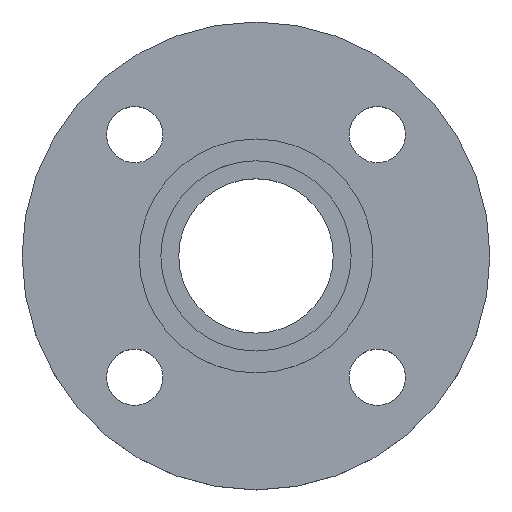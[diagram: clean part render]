
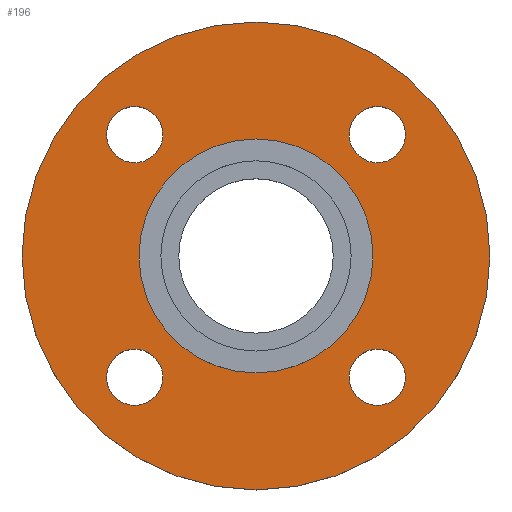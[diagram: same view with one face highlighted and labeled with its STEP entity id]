
A CAD part, top view. The second image highlights one B-rep face of the part: STEP entity #196.
In plain terms, the highlighted planar face has unit normal (0, 0, 1).
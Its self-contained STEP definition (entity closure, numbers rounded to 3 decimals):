
#7 = DIRECTION ( 'NONE',  ( 1., 0., 0. ) ) ;
#9 = CIRCLE ( 'NONE', #320, 9. ) ;
#15 = DIRECTION ( 'NONE',  ( -1., 0., 0. ) ) ;
#17 = AXIS2_PLACEMENT_3D ( 'NONE', #220, #118, #7 ) ;
#38 = CIRCLE ( 'NONE', #270, 75. ) ;
#47 = CARTESIAN_POINT ( 'NONE',  ( 0., 0., -4.5 ) ) ;
#48 = CARTESIAN_POINT ( 'NONE',  ( -47.891, -38.891, -4.5 ) ) ;
#49 = DIRECTION ( 'NONE',  ( 0., 0., -1. ) ) ;
#50 = CARTESIAN_POINT ( 'NONE',  ( 38.891, 38.891, -4.5 ) ) ;
#56 = CARTESIAN_POINT ( 'NONE',  ( -29.891, -38.891, -4.5 ) ) ;
#59 = CARTESIAN_POINT ( 'NONE',  ( -37.5, 0., -4.5 ) ) ;
#68 = DIRECTION ( 'NONE',  ( 1., 0., 0. ) ) ;
#76 = CARTESIAN_POINT ( 'NONE',  ( -47.891, 38.891, -4.5 ) ) ;
#81 = CARTESIAN_POINT ( 'NONE',  ( 47.891, -38.891, -4.5 ) ) ;
#84 = DIRECTION ( 'NONE',  ( 1., 0., 0. ) ) ;
#85 = DIRECTION ( 'NONE',  ( 0., 0., -1. ) ) ;
#96 = CARTESIAN_POINT ( 'NONE',  ( 0., 0., -4.5 ) ) ;
#97 = DIRECTION ( 'NONE',  ( 0., 0., -1. ) ) ;
#99 = DIRECTION ( 'NONE',  ( 0., 0., -1. ) ) ;
#101 = DIRECTION ( 'NONE',  ( -1., 0., 0. ) ) ;
#115 = CARTESIAN_POINT ( 'NONE',  ( -38.891, 38.891, -4.5 ) ) ;
#117 = DIRECTION ( 'NONE',  ( 0., 0., -1. ) ) ;
#118 = DIRECTION ( 'NONE',  ( 0., 0., -1. ) ) ;
#119 = DIRECTION ( 'NONE',  ( 1., 0., 0. ) ) ;
#128 = EDGE_CURVE ( 'NONE', #315, #329, #407, .T. ) ;
#130 = CARTESIAN_POINT ( 'NONE',  ( 38.891, 38.891, -4.5 ) ) ;
#133 = CARTESIAN_POINT ( 'NONE',  ( 47.891, 38.891, -4.5 ) ) ;
#137 = AXIS2_PLACEMENT_3D ( 'NONE', #598, #599, #602 ) ;
#149 = CIRCLE ( 'NONE', #137, 9. ) ;
#152 = AXIS2_PLACEMENT_3D ( 'NONE', #130, #49, #84 ) ;
#168 = CARTESIAN_POINT ( 'NONE',  ( -38.891, 38.891, -4.5 ) ) ;
#169 = DIRECTION ( 'NONE',  ( 0., 0., -1. ) ) ;
#170 = DIRECTION ( 'NONE',  ( 1., 0., 0. ) ) ;
#175 = CIRCLE ( 'NONE', #152, 9. ) ;
#177 = CIRCLE ( 'NONE', #259, 9. ) ;
#179 = CARTESIAN_POINT ( 'NONE',  ( -38.891, -38.891, -4.5 ) ) ;
#180 = DIRECTION ( 'NONE',  ( 0., 0., -1. ) ) ;
#181 = DIRECTION ( 'NONE',  ( 1., 0., 0. ) ) ;
#186 = CARTESIAN_POINT ( 'NONE',  ( -75., 0., -4.5 ) ) ;
#188 = CARTESIAN_POINT ( 'NONE',  ( -29.891, 38.891, -4.5 ) ) ;
#191 = CARTESIAN_POINT ( 'NONE',  ( 37.5, 0., -4.5 ) ) ;
#196 = ADVANCED_FACE ( 'NONE', ( #587, #588, #589, #591, #592, #593 ), #594, .T. ) ;
#197 = CARTESIAN_POINT ( 'NONE',  ( 29.891, -38.891, -4.5 ) ) ;
#200 = AXIS2_PLACEMENT_3D ( 'NONE', #179, #180, #181 ) ;
#205 = CARTESIAN_POINT ( 'NONE',  ( 29.891, 38.891, -4.5 ) ) ;
#207 = EDGE_CURVE ( 'NONE', #498, #319, #149, .T. ) ;
#212 = CARTESIAN_POINT ( 'NONE',  ( 75., 0., -4.5 ) ) ;
#219 = CIRCLE ( 'NONE', #229, 9. ) ;
#220 = CARTESIAN_POINT ( 'NONE',  ( -38.891, -38.891, -4.5 ) ) ;
#221 = CIRCLE ( 'NONE', #17, 9. ) ;
#229 = AXIS2_PLACEMENT_3D ( 'NONE', #50, #97, #68 ) ;
#232 = EDGE_CURVE ( 'NONE', #317, #481, #430, .T. ) ;
#244 = EDGE_CURVE ( 'NONE', #319, #498, #9, .T. ) ;
#246 = AXIS2_PLACEMENT_3D ( 'NONE', #96, #99, #101 ) ;
#247 = CIRCLE ( 'NONE', #200, 9. ) ;
#259 = AXIS2_PLACEMENT_3D ( 'NONE', #168, #169, #170 ) ;
#260 = AXIS2_PLACEMENT_3D ( 'NONE', #564, #565, #566 ) ;
#262 = DIRECTION ( 'NONE',  ( -1., 0., 0. ) ) ;
#264 = CIRCLE ( 'NONE', #277, 9. ) ;
#270 = AXIS2_PLACEMENT_3D ( 'NONE', #47, #85, #15 ) ;
#275 = EDGE_CURVE ( 'NONE', #481, #317, #530, .T. ) ;
#277 = AXIS2_PLACEMENT_3D ( 'NONE', #115, #117, #119 ) ;
#282 = EDGE_CURVE ( 'NONE', #316, #484, #264, .T. ) ;
#284 = DIRECTION ( 'NONE',  ( 0., 0., -1. ) ) ;
#287 = AXIS2_PLACEMENT_3D ( 'NONE', #595, #596, #597 ) ;
#299 = EDGE_CURVE ( 'NONE', #484, #316, #177, .T. ) ;
#311 = EDGE_CURVE ( 'NONE', #427, #483, #247, .T. ) ;
#315 = VERTEX_POINT ( 'NONE', #186 ) ;
#316 = VERTEX_POINT ( 'NONE', #188 ) ;
#317 = VERTEX_POINT ( 'NONE', #191 ) ;
#319 = VERTEX_POINT ( 'NONE', #197 ) ;
#320 = AXIS2_PLACEMENT_3D ( 'NONE', #644, #645, #646 ) ;
#329 = VERTEX_POINT ( 'NONE', #212 ) ;
#331 = EDGE_LOOP ( 'NONE', ( #414, #415 ) ) ;
#334 = EDGE_LOOP ( 'NONE', ( #409, #410 ) ) ;
#357 = VERTEX_POINT ( 'NONE', #205 ) ;
#359 = EDGE_LOOP ( 'NONE', ( #403, #405 ) ) ;
#367 = EDGE_LOOP ( 'NONE', ( #406, #408 ) ) ;
#382 = VERTEX_POINT ( 'NONE', #133 ) ;
#386 = EDGE_CURVE ( 'NONE', #483, #427, #221, .T. ) ;
#401 = ORIENTED_EDGE ( 'NONE', *, *, #207, .T. ) ;
#402 = ORIENTED_EDGE ( 'NONE', *, *, #244, .T. ) ;
#403 = ORIENTED_EDGE ( 'NONE', *, *, #386, .T. ) ;
#405 = ORIENTED_EDGE ( 'NONE', *, *, #311, .T. ) ;
#406 = ORIENTED_EDGE ( 'NONE', *, *, #282, .T. ) ;
#407 = CIRCLE ( 'NONE', #260, 75. ) ;
#408 = ORIENTED_EDGE ( 'NONE', *, *, #299, .T. ) ;
#409 = ORIENTED_EDGE ( 'NONE', *, *, #413, .T. ) ;
#410 = ORIENTED_EDGE ( 'NONE', *, *, #417, .T. ) ;
#411 = ORIENTED_EDGE ( 'NONE', *, *, #275, .T. ) ;
#412 = ORIENTED_EDGE ( 'NONE', *, *, #232, .T. ) ;
#413 = EDGE_CURVE ( 'NONE', #382, #357, #175, .T. ) ;
#414 = ORIENTED_EDGE ( 'NONE', *, *, #510, .F. ) ;
#415 = ORIENTED_EDGE ( 'NONE', *, *, #128, .F. ) ;
#417 = EDGE_CURVE ( 'NONE', #357, #382, #219, .T. ) ;
#427 = VERTEX_POINT ( 'NONE', #48 ) ;
#430 = CIRCLE ( 'NONE', #495, 37.5 ) ;
#447 = EDGE_LOOP ( 'NONE', ( #411, #412 ) ) ;
#481 = VERTEX_POINT ( 'NONE', #59 ) ;
#483 = VERTEX_POINT ( 'NONE', #56 ) ;
#484 = VERTEX_POINT ( 'NONE', #76 ) ;
#495 = AXIS2_PLACEMENT_3D ( 'NONE', #634, #284, #262 ) ;
#498 = VERTEX_POINT ( 'NONE', #81 ) ;
#501 = EDGE_LOOP ( 'NONE', ( #401, #402 ) ) ;
#510 = EDGE_CURVE ( 'NONE', #329, #315, #38, .T. ) ;
#530 = CIRCLE ( 'NONE', #246, 37.5 ) ;
#564 = CARTESIAN_POINT ( 'NONE',  ( 0., 0., -4.5 ) ) ;
#565 = DIRECTION ( 'NONE',  ( 0., 0., -1. ) ) ;
#566 = DIRECTION ( 'NONE',  ( -1., 0., 0. ) ) ;
#587 = FACE_BOUND ( 'NONE', #501, .T. ) ;
#588 = FACE_BOUND ( 'NONE', #359, .T. ) ;
#589 = FACE_BOUND ( 'NONE', #367, .T. ) ;
#591 = FACE_BOUND ( 'NONE', #334, .T. ) ;
#592 = FACE_BOUND ( 'NONE', #447, .T. ) ;
#593 = FACE_OUTER_BOUND ( 'NONE', #331, .T. ) ;
#594 = PLANE ( 'NONE',  #287 ) ;
#595 = CARTESIAN_POINT ( 'NONE',  ( 37.5, 0., -4.5 ) ) ;
#596 = DIRECTION ( 'NONE',  ( 0., 0., 1. ) ) ;
#597 = DIRECTION ( 'NONE',  ( 1., 0., 0. ) ) ;
#598 = CARTESIAN_POINT ( 'NONE',  ( 38.891, -38.891, -4.5 ) ) ;
#599 = DIRECTION ( 'NONE',  ( 0., 0., -1. ) ) ;
#602 = DIRECTION ( 'NONE',  ( 1., 0., 0. ) ) ;
#634 = CARTESIAN_POINT ( 'NONE',  ( 0., 0., -4.5 ) ) ;
#644 = CARTESIAN_POINT ( 'NONE',  ( 38.891, -38.891, -4.5 ) ) ;
#645 = DIRECTION ( 'NONE',  ( 0., 0., -1. ) ) ;
#646 = DIRECTION ( 'NONE',  ( 1., 0., 0. ) ) ;
